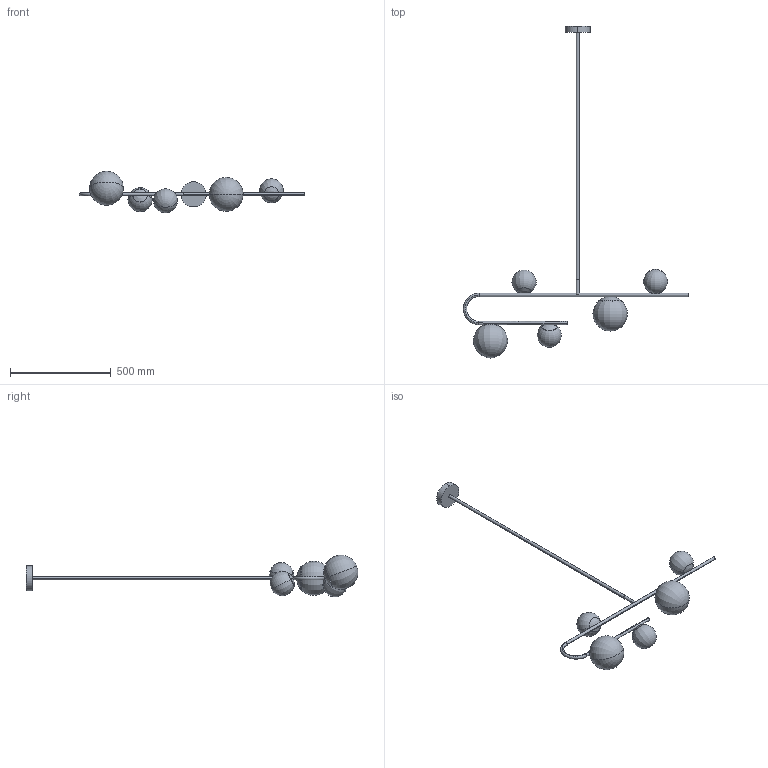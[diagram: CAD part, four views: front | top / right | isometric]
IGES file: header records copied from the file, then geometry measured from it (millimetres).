
Start section: SolidWorks IGES file using analytic representation for surfaces
Global section: file name: Y:\eforma\TECNICO\SOLIDWORKS\E-FORMA\09-LAMPADE\DECOR\02 parts\DECH2_Decor sospensione 164h.IGS; native system: SolidWorks 2022; preprocessor: SolidWorks 2022; author: eforma.tech; date: 240806.104448; units: millimetre
Bounding box: 1115.91 x 1645.6 x 207.21 mm (x, y, z)
Volume: 8861529.3 mm3; surface area: 578546.7 mm2
Topology: 12 solids, 12 shells, 62 faces, 188 edges, 112 vertices
Faces by surface type: revolution 50, bspline 7, plane 5
